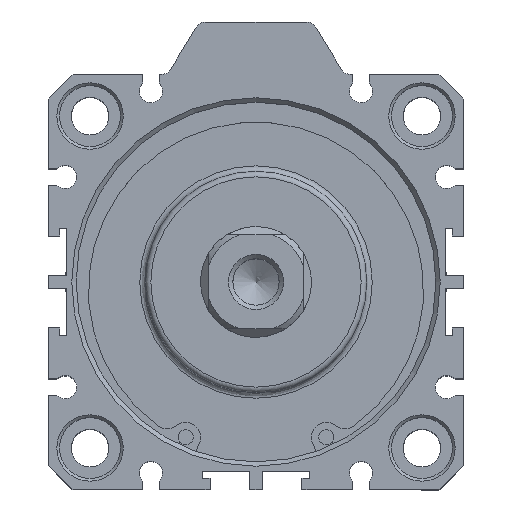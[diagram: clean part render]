
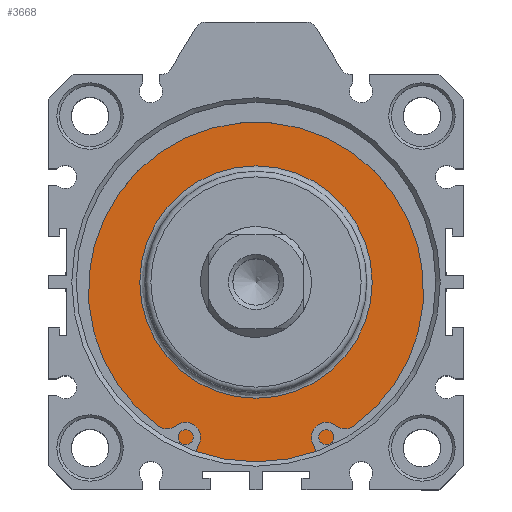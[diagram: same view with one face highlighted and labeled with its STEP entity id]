
A CAD part, top view. The second image highlights one B-rep face of the part: STEP entity #3668.
In plain terms, the highlighted planar face has unit normal (0, 0, 1).
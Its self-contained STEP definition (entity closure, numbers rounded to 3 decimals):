
#3617=CARTESIAN_POINT('',(0.359,19.684,47.3));
#3618=VERTEX_POINT('',#3617);
#3619=CARTESIAN_POINT('',(0.359,-1.316,47.3));
#3620=DIRECTION('',(0.0,0.0,1.0));
#3621=DIRECTION('',(0.0,-1.0,0.0));
#3622=AXIS2_PLACEMENT_3D('',#3619,#3620,#3621);
#3623=CIRCLE('',#3622,21.0);
#3624=EDGE_CURVE('',#3618,#3618,#3623,.T.);
#3649=CARTESIAN_POINT('',(0.359,24.934,47.3));
#3650=DIRECTION('',(0.0,0.0,1.0));
#3651=DIRECTION('',(1.0,0.0,0.0));
#3652=AXIS2_PLACEMENT_3D('',#3649,#3650,#3651);
#3653=PLANE('',#3652);
#3654=CARTESIAN_POINT('',(0.359,31.184,47.3));
#3655=VERTEX_POINT('',#3654);
#3656=CARTESIAN_POINT('',(0.359,-1.316,47.3));
#3657=DIRECTION('',(0.0,0.0,-1.0));
#3658=DIRECTION('',(0.0,1.0,0.0));
#3659=AXIS2_PLACEMENT_3D('',#3656,#3657,#3658);
#3660=CIRCLE('',#3659,32.5);
#3661=EDGE_CURVE('',#3655,#3655,#3660,.T.);
#3662=ORIENTED_EDGE('',*,*,#3661,.F.);
#3663=EDGE_LOOP('',(#3662));
#3664=FACE_OUTER_BOUND('',#3663,.T.);
#3665=ORIENTED_EDGE('',*,*,#3624,.F.);
#3666=EDGE_LOOP('',(#3665));
#3667=FACE_BOUND('',#3666,.T.);
#3668=ADVANCED_FACE('',(#3664,#3667),#3653,.T.);
